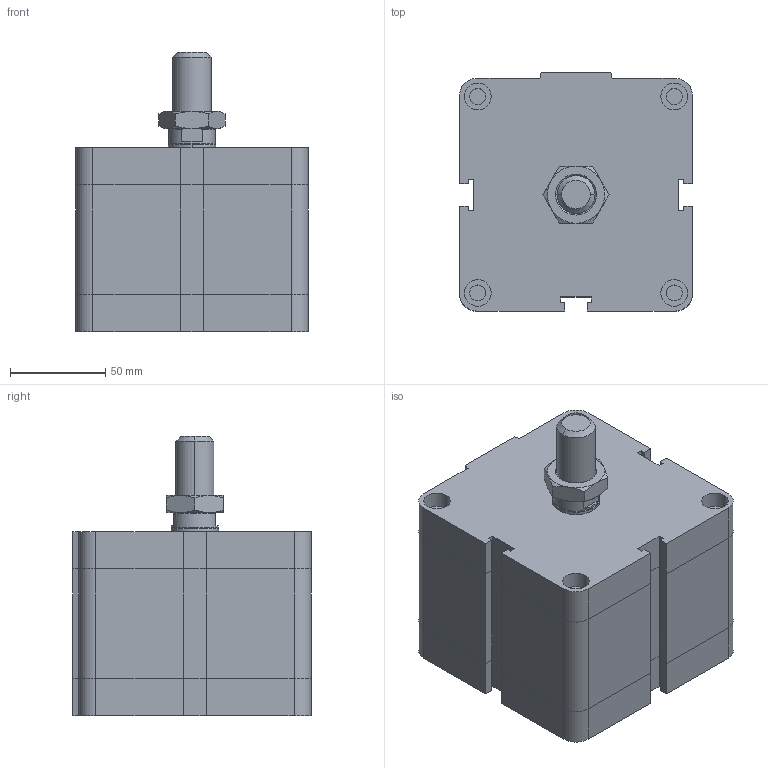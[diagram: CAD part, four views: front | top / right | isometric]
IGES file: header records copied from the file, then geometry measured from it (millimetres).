
Global section: file name: No Iges File Name specified; native system: Autodesk Inventor 2009; preprocessor: AutoDesk Inventor Iges Exporter R2009; author: rivolro1; date: 20081219.162839; units: millimetre
Bounding box: 122 x 125 x 146.5 mm (x, y, z)
Volume: 1412796.2 mm3; surface area: 103351.4 mm2
Topology: 3 solids, 3 shells, 216 faces, 472 edges, 282 vertices
Faces by surface type: plane 121, bspline 37, cylinder 20, cone 20, revolution 18
